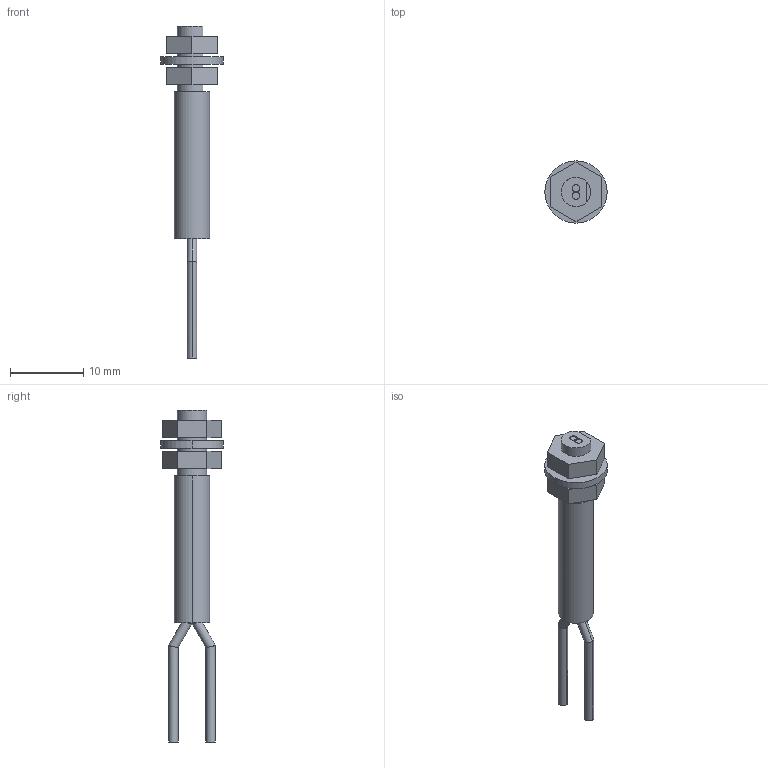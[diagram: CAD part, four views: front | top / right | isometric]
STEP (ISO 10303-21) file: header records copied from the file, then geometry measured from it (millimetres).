
FILE_DESCRIPTION (( 'STEP AP203' ), '1' );
FILE_NAME ('FD-WT8.STEP', '2005-09-04T10:30:30', ( '川島良英' ), ( ' ' ), 'SwSTEP 2.0', 'SolidWorks 2004251', '' );
FILE_SCHEMA (( 'CONFIG_CONTROL_DESIGN' ));
Length unit declared in the file: millimetre
Products named in the file (1): FD-WT8
Bounding box: 8.5 x 8.5 x 45.28 mm (x, y, z)
Volume: 698.8 mm3; surface area: 1010 mm2
Topology: 4 solids, 4 shells, 51 faces, 110 edges, 72 vertices
Faces by surface type: plane 26, cylinder 25
Entity records: 1471 total; most frequent: CARTESIAN_POINT 270, DIRECTION 238, ORIENTED_EDGE 220, EDGE_CURVE 110, AXIS2_PLACEMENT_3D 88, VERTEX_POINT 72, EDGE_LOOP 62, VECTOR 62
